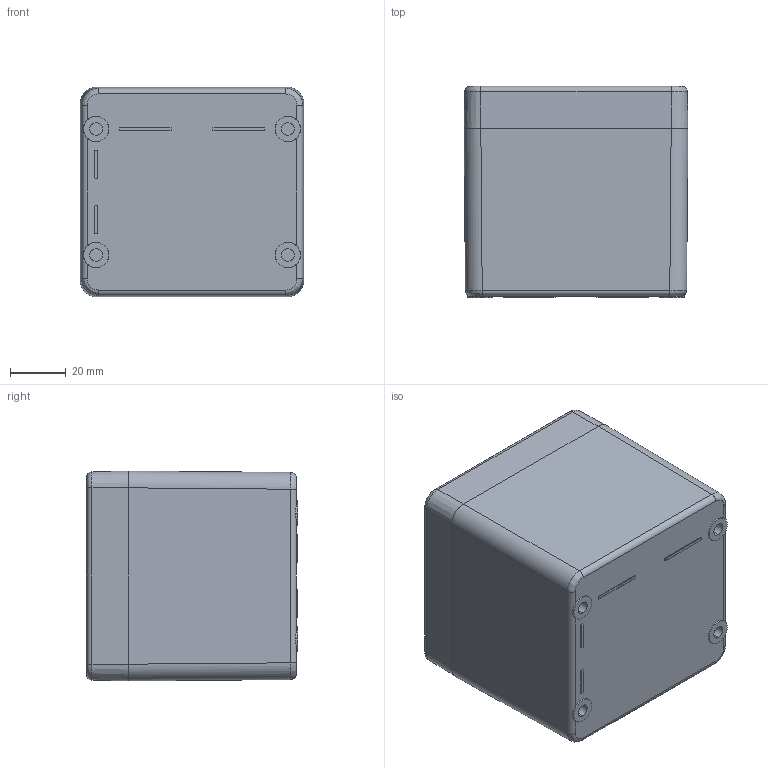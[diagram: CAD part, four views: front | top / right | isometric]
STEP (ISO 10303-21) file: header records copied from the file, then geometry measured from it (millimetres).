
FILE_DESCRIPTION((''),'2;1');
FILE_NAME('4144000050_ASM','2023-11-28T10:21:24',('silke.otte'),(''),'CREO PARAMETRIC BY PTC INC, 2022124','CREO PARAMETRIC BY PTC INC, 2022124','');
FILE_SCHEMA(('AUTOMOTIVE_DESIGN { 1 0 10303 214 1 1 1 1 }'));
Length unit declared in the file: millimetre
Products named in the file (15): 9331031000; EINPRESSMUTTER_M4; EINPRESSMUTTER_M4_AF8; EINPRESSMUTTER_M4_AF9; EINPRESSMUTTER_M4_AF10; EINPRESSMUTTER_M4_AF11; 9331031000_ASM; 9332001000; CP-DICHTUNG_35; 9614003100_ASM; 9262004000; 9261014000; 9258857000; 9258838000; 4144000050_ASM
Assembly tree (22 placements, depth 3):
  4144000050_ASM
    9331031000_ASM
      9331031000
      EINPRESSMUTTER_M4  x2
      EINPRESSMUTTER_M4_AF8
      EINPRESSMUTTER_M4_AF9
      EINPRESSMUTTER_M4_AF10
      EINPRESSMUTTER_M4_AF11
    9614003100_ASM
      9332001000
      CP-DICHTUNG_35
    9262004000  x4
    9261014000  x4
    9258857000  x2
    9258838000
Bounding box: 80 x 75.6 x 75 mm (x, y, z)
Volume: 155359.3 mm3; surface area: 85461.9 mm2
Topology: 20 solids, 30 shells, 713 faces, 5557 edges, 8604 vertices
Faces by surface type: plane 301, cone 184, cylinder 178, bspline 26, torus 24
Entity records: 42630 total; most frequent: CARTESIAN_POINT 9122, DIRECTION 5461, VECTOR 2711, LINE 2711, ORIENTED_EDGE 2374, TRIMMED_CURVE 2231, PRESENTATION_STYLE_ASSIGNMENT 1570, STYLED_ITEM 1549
